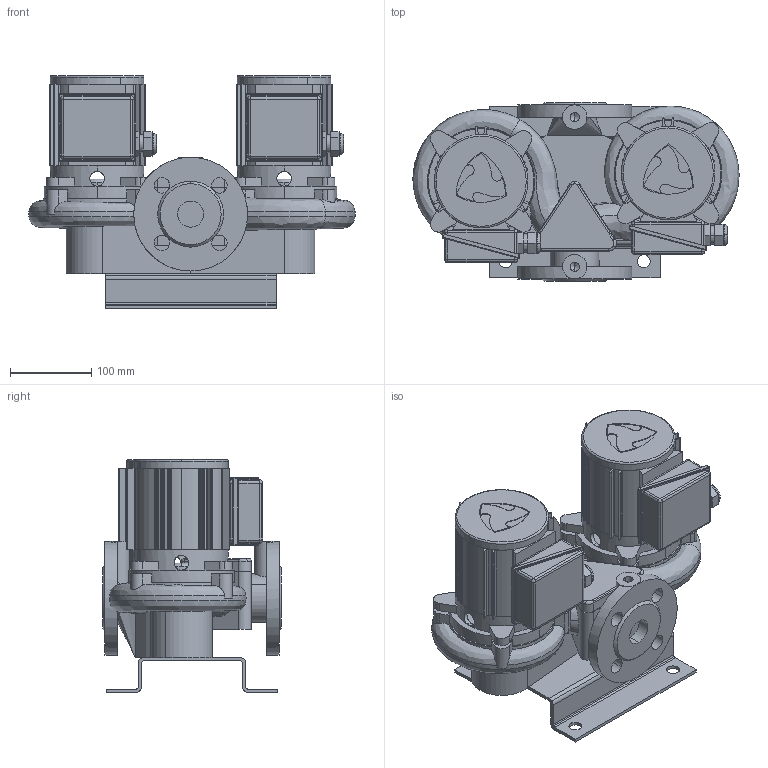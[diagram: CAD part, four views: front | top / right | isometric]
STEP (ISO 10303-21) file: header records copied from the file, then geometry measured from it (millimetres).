
FILE_DESCRIPTION(('STEP AP214'),'1');
FILE_NAME('export.stp','2018-05-30T07:18:34',(' '),(' '),'Spatial InterOp 3D',' ',' ');
FILE_SCHEMA(('AUTOMOTIVE_DESIGN { 1 0 10303 214 1 1 1 1 }'));
Length unit declared in the file: millimetre
Products named in the file (13): V_MOP732742; RU_OP_732_742; TKILPI_OP_7; KYTKOTELO_OP7_OKN8; W_T32A4800; V_EKN12OP7; V_TLL32AAP15AKP25; V_PPT32A; V_JALKA35973
Assembly tree (14 placements, depth 3):
  W_T32A4800
    V_MOP732742
      RU_OP_732_742
      TKILPI_OP_7
      KYTKOTELO_OP7_OKN8
    V_MOP732742
      RU_OP_732_742
      TKILPI_OP_7
      KYTKOTELO_OP7_OKN8
    V_EKN12OP7  x2
    V_TLL32AAP15AKP25  x2
    V_PPT32A
    V_JALKA35973
Bounding box: 401.13 x 220 x 286.5 mm (x, y, z)
Volume: 5755960.5 mm3; surface area: 902800.2 mm2
Topology: 12 solids, 14 shells, 979 faces, 2629 edges, 1681 vertices
Faces by surface type: cylinder 546, plane 280, bspline 85, sphere 24, torus 22, cone 22
Entity records: 51216 total; most frequent: CARTESIAN_POINT 12709, DIRECTION 4904, ORIENTED_EDGE 4830, STYLED_ITEM 2517, PRESENTATION_STYLE_ASSIGNMENT 2517, COLOUR_RGB 2517, EDGE_CURVE 2415, AXIS2_PLACEMENT_3D 1960
